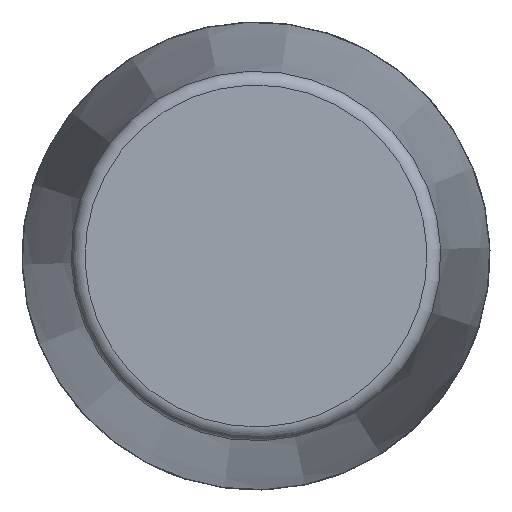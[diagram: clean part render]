
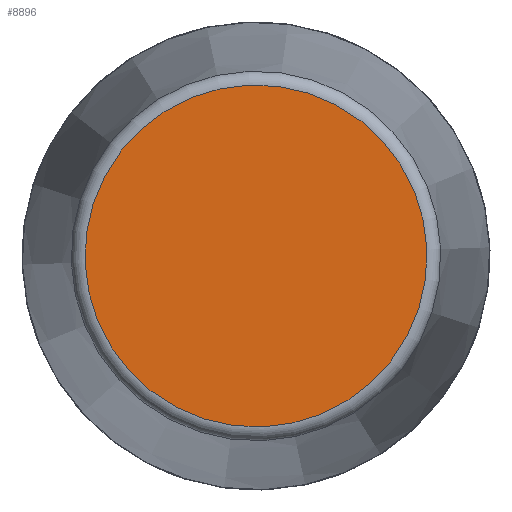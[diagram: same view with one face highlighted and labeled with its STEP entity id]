
A CAD part, front view. The second image highlights one B-rep face of the part: STEP entity #8896.
In plain terms, the highlighted planar face has unit normal (0, -1, 0) as drawn and (1, 0, 0) by its records, which use the part's own axes.
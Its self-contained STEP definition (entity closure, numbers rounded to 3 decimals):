
#2500=PLANE('',#9277);
#3086=FACE_OUTER_BOUND('',#3648,.T.);
#3648=EDGE_LOOP('',(#8379));
#3689=CIRCLE('',#9273,124.175);
#4557=VERTEX_POINT('',#16627);
#5834=EDGE_CURVE('',#4557,#4557,#3689,.T.);
#8379=ORIENTED_EDGE('',*,*,#5834,.F.);
#8896=ADVANCED_FACE('',(#3086),#2500,.T.);
#9273=AXIS2_PLACEMENT_3D('',#16628,#10673,#10674);
#9277=AXIS2_PLACEMENT_3D('',#16634,#10681,#10682);
#10673=DIRECTION('center_axis',(-1.,0.,0.));
#10674=DIRECTION('ref_axis',(0.,0.,
1.));
#10681=DIRECTION('center_axis',(1.,0.,0.));
#10682=DIRECTION('ref_axis',(0.,0.,-1.));
#16627=CARTESIAN_POINT('',(608.,0.,-124.175));
#16628=CARTESIAN_POINT('Origin',(608.,0.,0.));
#16634=CARTESIAN_POINT('Origin',(608.,0.,0.));
